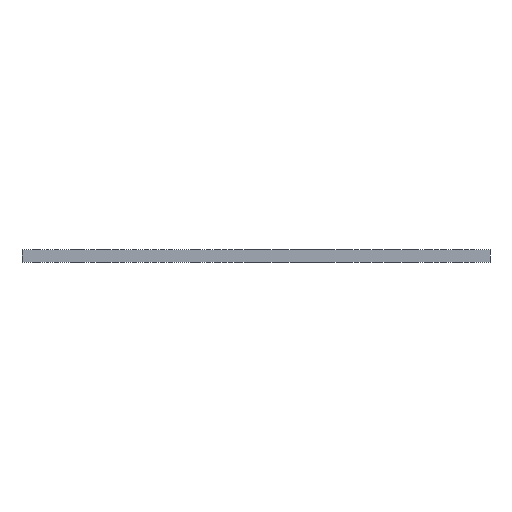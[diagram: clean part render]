
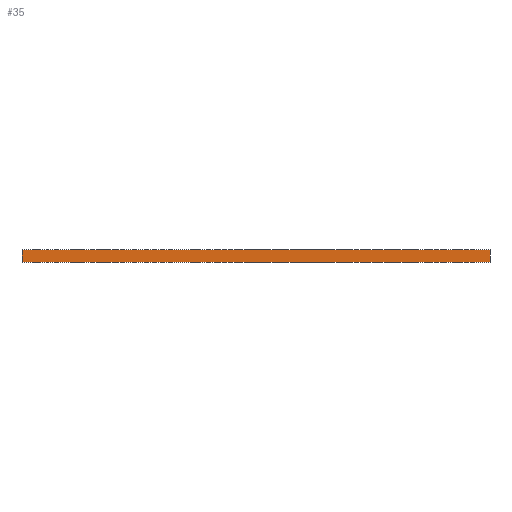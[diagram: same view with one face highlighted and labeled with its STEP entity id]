
A CAD part, front view. The second image highlights one B-rep face of the part: STEP entity #35.
In plain terms, the highlighted planar face has unit normal (0, -1, 0).
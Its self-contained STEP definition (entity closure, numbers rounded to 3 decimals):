
#35 = ADVANCED_FACE('',(#36),#70,.T.);
#36 = FACE_BOUND('',#37,.T.);
#37 = EDGE_LOOP('',(#38,#48,#56,#64));
#38 = ORIENTED_EDGE('',*,*,#39,.T.);
#39 = EDGE_CURVE('',#40,#42,#44,.T.);
#40 = VERTEX_POINT('',#41);
#41 = CARTESIAN_POINT('',(55.,-60.,0.));
#42 = VERTEX_POINT('',#43);
#43 = CARTESIAN_POINT('',(55.,-60.,1.51));
#44 = LINE('',#45,#46);
#45 = CARTESIAN_POINT('',(55.,-60.,0.));
#46 = VECTOR('',#47,1.);
#47 = DIRECTION('',(0.,0.,1.));
#48 = ORIENTED_EDGE('',*,*,#49,.T.);
#49 = EDGE_CURVE('',#42,#50,#52,.T.);
#50 = VERTEX_POINT('',#51);
#51 = CARTESIAN_POINT('',(0.,-60.,1.51));
#52 = LINE('',#53,#54);
#53 = CARTESIAN_POINT('',(55.,-60.,1.51));
#54 = VECTOR('',#55,1.);
#55 = DIRECTION('',(-1.,0.,0.));
#56 = ORIENTED_EDGE('',*,*,#57,.F.);
#57 = EDGE_CURVE('',#58,#50,#60,.T.);
#58 = VERTEX_POINT('',#59);
#59 = CARTESIAN_POINT('',(0.,-60.,0.));
#60 = LINE('',#61,#62);
#61 = CARTESIAN_POINT('',(0.,-60.,0.));
#62 = VECTOR('',#63,1.);
#63 = DIRECTION('',(0.,0.,1.));
#64 = ORIENTED_EDGE('',*,*,#65,.F.);
#65 = EDGE_CURVE('',#40,#58,#66,.T.);
#66 = LINE('',#67,#68);
#67 = CARTESIAN_POINT('',(55.,-60.,0.));
#68 = VECTOR('',#69,1.);
#69 = DIRECTION('',(-1.,0.,0.));
#70 = PLANE('',#71);
#71 = AXIS2_PLACEMENT_3D('',#72,#73,#74);
#72 = CARTESIAN_POINT('',(55.,-60.,0.));
#73 = DIRECTION('',(0.,-1.,0.));
#74 = DIRECTION('',(-1.,0.,0.));
